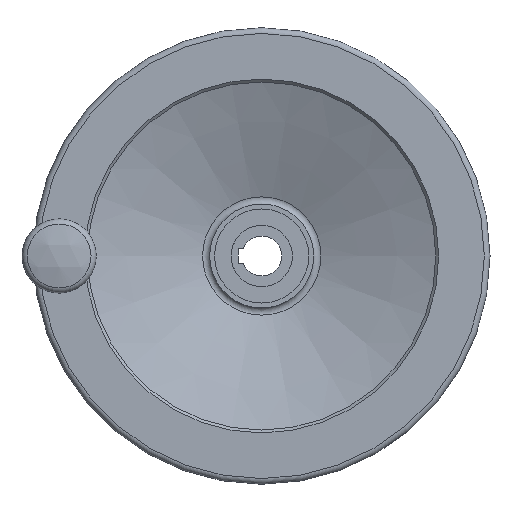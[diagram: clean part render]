
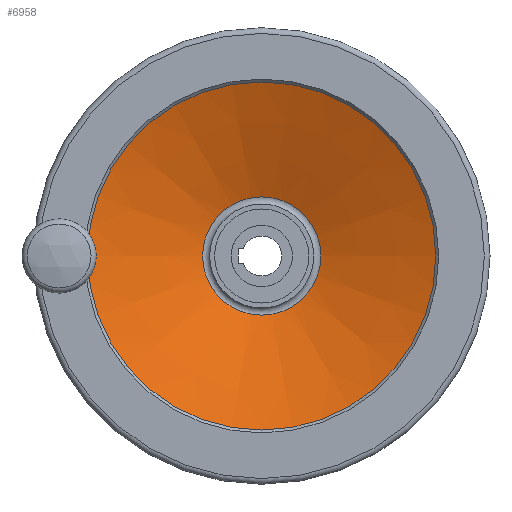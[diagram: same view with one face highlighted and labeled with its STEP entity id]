
A CAD part, left-side view. The second image highlights one B-rep face of the part: STEP entity #6958.
In plain terms, the highlighted conical face has half-angle 69 degrees and reference radius 61 mm.
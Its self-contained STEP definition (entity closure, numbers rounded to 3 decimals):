
#279 = ORIENTED_EDGE ( 'NONE', *, *, #4804, .F. ) ;
#470 = DIRECTION ( 'NONE',  ( 0., -1., 0. ) ) ;
#1056 = FACE_OUTER_BOUND ( 'NONE', #1801, .T. ) ;
#1225 = DIRECTION ( 'NONE',  ( 0., -1., 0. ) ) ;
#1278 = AXIS2_PLACEMENT_3D ( 'NONE', #3248, #7454, #6159 ) ;
#1801 = EDGE_LOOP ( 'NONE', ( #279 ) ) ;
#2162 = EDGE_CURVE ( 'NONE', #5138, #5138, #6367, .T. ) ;
#2894 = VERTEX_POINT ( 'NONE', #7653 ) ;
#3248 = CARTESIAN_POINT ( 'NONE',  ( -36., 0., 0. ) ) ;
#3453 = DIRECTION ( 'NONE',  ( -1., 0., 0. ) ) ;
#3876 = CARTESIAN_POINT ( 'NONE',  ( -20.537, -20.717, 0. ) ) ;
#3971 = AXIS2_PLACEMENT_3D ( 'NONE', #6589, #4211, #1225 ) ;
#4211 = DIRECTION ( 'NONE',  ( 1., 0., 0. ) ) ;
#4549 = CONICAL_SURFACE ( 'NONE', #6571, 61., 1.204 ) ;
#4804 = EDGE_CURVE ( 'NONE', #2894, #2894, #7439, .T. ) ;
#5138 = VERTEX_POINT ( 'NONE', #3876 ) ;
#5179 = ORIENTED_EDGE ( 'NONE', *, *, #2162, .T. ) ;
#5787 = CARTESIAN_POINT ( 'NONE',  ( -36., 0., 0. ) ) ;
#6159 = DIRECTION ( 'NONE',  ( 0., 1., 0. ) ) ;
#6257 = EDGE_LOOP ( 'NONE', ( #5179 ) ) ;
#6367 = CIRCLE ( 'NONE', #3971, 20.717 ) ;
#6571 = AXIS2_PLACEMENT_3D ( 'NONE', #5787, #3453, #470 ) ;
#6589 = CARTESIAN_POINT ( 'NONE',  ( -20.537, 0., 0. ) ) ;
#6958 = ADVANCED_FACE ( 'NONE', ( #7632, #1056 ), #4549, .F. ) ;
#7439 = CIRCLE ( 'NONE', #1278, 61. ) ;
#7454 = DIRECTION ( 'NONE',  ( 1., 0., 0. ) ) ;
#7632 = FACE_BOUND ( 'NONE', #6257, .T. ) ;
#7653 = CARTESIAN_POINT ( 'NONE',  ( -36., 61., 0. ) ) ;
